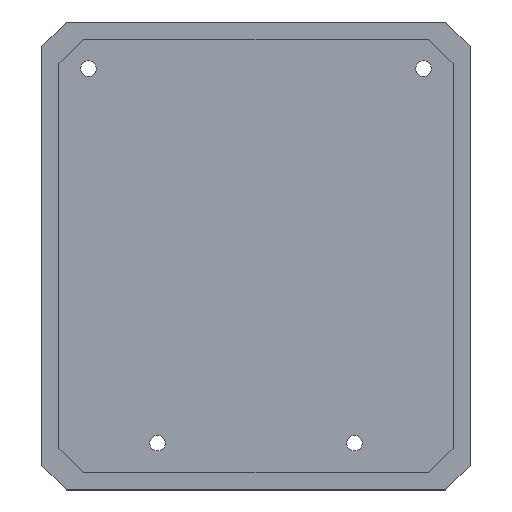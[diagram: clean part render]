
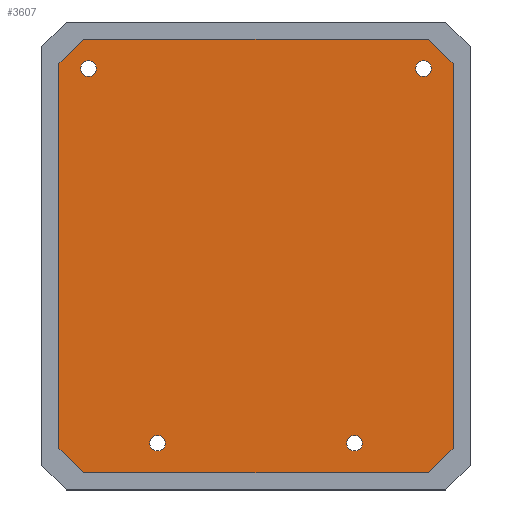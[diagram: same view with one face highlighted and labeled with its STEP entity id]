
A CAD part, top view. The second image highlights one B-rep face of the part: STEP entity #3607.
In plain terms, the highlighted planar face has unit normal (0, 0, 1).
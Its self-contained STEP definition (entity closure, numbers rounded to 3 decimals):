
#59 = VERTEX_POINT ( 'NONE', #2763 ) ;
#85 = CARTESIAN_POINT ( 'NONE',  ( 21.5, -43.5, 1.6 ) ) ;
#149 = DIRECTION ( 'NONE',  ( 0., 0., 1. ) ) ;
#174 = CARTESIAN_POINT ( 'NONE',  ( -34.1, 32.5, 1.6 ) ) ;
#178 = DIRECTION ( 'NONE',  ( 1., 0., 0. ) ) ;
#191 = ORIENTED_EDGE ( 'NONE', *, *, #721, .F. ) ;
#197 = CARTESIAN_POINT ( 'NONE',  ( 36.5, -49.5, 1.6 ) ) ;
#207 = VERTEX_POINT ( 'NONE', #2197 ) ;
#250 = FACE_OUTER_BOUND ( 'NONE', #4143, .T. ) ;
#278 = CARTESIAN_POINT ( 'NONE',  ( -20.1, -43.5, 1.6 ) ) ;
#285 = VERTEX_POINT ( 'NONE', #197 ) ;
#337 = AXIS2_PLACEMENT_3D ( 'NONE', #85, #3635, #3287 ) ;
#365 = EDGE_CURVE ( 'NONE', #1967, #2493, #811, .T. ) ;
#376 = ORIENTED_EDGE ( 'NONE', *, *, #3656, .T. ) ;
#441 = CARTESIAN_POINT ( 'NONE',  ( -38.5, 33.5, 1.6 ) ) ;
#509 = VERTEX_POINT ( 'NONE', #1373 ) ;
#694 = ORIENTED_EDGE ( 'NONE', *, *, #4134, .F. ) ;
#721 = EDGE_CURVE ( 'NONE', #4150, #2888, #1340, .T. ) ;
#749 = CARTESIAN_POINT ( 'NONE',  ( -16.9, -43.5, 1.6 ) ) ;
#811 = CIRCLE ( 'NONE', #2199, 1.6 ) ;
#894 = PLANE ( 'NONE',  #1836 ) ;
#933 = DIRECTION ( 'NONE',  ( 0.707, 0.707, 0. ) ) ;
#942 = CARTESIAN_POINT ( 'NONE',  ( 0., 0., 1.6 ) ) ;
#1005 = ORIENTED_EDGE ( 'NONE', *, *, #1087, .F. ) ;
#1007 = ORIENTED_EDGE ( 'NONE', *, *, #3265, .T. ) ;
#1013 = LINE ( 'NONE', #1765, #3112 ) ;
#1019 = VERTEX_POINT ( 'NONE', #1067 ) ;
#1021 = CARTESIAN_POINT ( 'NONE',  ( 41.5, -44.5, 1.6 ) ) ;
#1067 = CARTESIAN_POINT ( 'NONE',  ( -38.5, 33.5, 1.6 ) ) ;
#1078 = DIRECTION ( 'NONE',  ( 1., 0., 0. ) ) ;
#1087 = EDGE_CURVE ( 'NONE', #2493, #1967, #2931, .T. ) ;
#1147 = VERTEX_POINT ( 'NONE', #2590 ) ;
#1149 = CARTESIAN_POINT ( 'NONE',  ( 19.9, -43.5, 1.6 ) ) ;
#1193 = CARTESIAN_POINT ( 'NONE',  ( 36.5, -49.5, 1.6 ) ) ;
#1214 = LINE ( 'NONE', #2629, #3914 ) ;
#1231 = EDGE_CURVE ( 'NONE', #1504, #2522, #4477, .T. ) ;
#1263 = AXIS2_PLACEMENT_3D ( 'NONE', #3594, #2800, #4219 ) ;
#1279 = DIRECTION ( 'NONE',  ( 0., 0., 1. ) ) ;
#1330 = CARTESIAN_POINT ( 'NONE',  ( -18.5, -43.5, 1.6 ) ) ;
#1340 = CIRCLE ( 'NONE', #2798, 1.6 ) ;
#1369 = LINE ( 'NONE', #2764, #1396 ) ;
#1373 = CARTESIAN_POINT ( 'NONE',  ( 36.5, 38.5, 1.6 ) ) ;
#1396 = VECTOR ( 'NONE', #2041, 1000. ) ;
#1410 = DIRECTION ( 'NONE',  ( -1., 0., 0. ) ) ;
#1449 = EDGE_CURVE ( 'NONE', #1019, #1147, #1470, .T. ) ;
#1470 = LINE ( 'NONE', #441, #3756 ) ;
#1490 = LINE ( 'NONE', #2859, #3390 ) ;
#1504 = VERTEX_POINT ( 'NONE', #278 ) ;
#1604 = CARTESIAN_POINT ( 'NONE',  ( -32.5, 32.5, 1.6 ) ) ;
#1606 = EDGE_CURVE ( 'NONE', #2522, #1504, #2950, .T. ) ;
#1619 = ORIENTED_EDGE ( 'NONE', *, *, #1231, .F. ) ;
#1666 = ORIENTED_EDGE ( 'NONE', *, *, #2233, .T. ) ;
#1765 = CARTESIAN_POINT ( 'NONE',  ( -33.5, -49.5, 1.6 ) ) ;
#1786 = ORIENTED_EDGE ( 'NONE', *, *, #2997, .T. ) ;
#1799 = VECTOR ( 'NONE', #4173, 1000. ) ;
#1834 = DIRECTION ( 'NONE',  ( 0., -1., 0. ) ) ;
#1836 = AXIS2_PLACEMENT_3D ( 'NONE', #942, #1279, #3399 ) ;
#1913 = DIRECTION ( 'NONE',  ( 0., 0., 1. ) ) ;
#1915 = CARTESIAN_POINT ( 'NONE',  ( 35.5, 32.5, 1.6 ) ) ;
#1928 = DIRECTION ( 'NONE',  ( 1., 0., 0. ) ) ;
#1967 = VERTEX_POINT ( 'NONE', #3636 ) ;
#2004 = EDGE_CURVE ( 'NONE', #4362, #509, #1214, .T. ) ;
#2010 = EDGE_CURVE ( 'NONE', #4469, #3708, #3842, .T. ) ;
#2018 = FACE_BOUND ( 'NONE', #2192, .T. ) ;
#2032 = ORIENTED_EDGE ( 'NONE', *, *, #1449, .T. ) ;
#2041 = DIRECTION ( 'NONE',  ( -0.707, -0.707, 0. ) ) ;
#2048 = EDGE_CURVE ( 'NONE', #285, #207, #2567, .T. ) ;
#2086 = LINE ( 'NONE', #4502, #2487 ) ;
#2136 = CARTESIAN_POINT ( 'NONE',  ( 21.5, -43.5, 1.6 ) ) ;
#2141 = ORIENTED_EDGE ( 'NONE', *, *, #4157, .T. ) ;
#2192 = EDGE_LOOP ( 'NONE', ( #3863, #191 ) ) ;
#2197 = CARTESIAN_POINT ( 'NONE',  ( 41.5, -44.5, 1.6 ) ) ;
#2199 = AXIS2_PLACEMENT_3D ( 'NONE', #1915, #3293, #178 ) ;
#2201 = CIRCLE ( 'NONE', #3140, 1.6 ) ;
#2233 = EDGE_CURVE ( 'NONE', #509, #2769, #2086, .T. ) ;
#2289 = ORIENTED_EDGE ( 'NONE', *, *, #2010, .F. ) ;
#2350 = CARTESIAN_POINT ( 'NONE',  ( -32.5, 32.5, 1.6 ) ) ;
#2370 = ORIENTED_EDGE ( 'NONE', *, *, #2004, .T. ) ;
#2392 = DIRECTION ( 'NONE',  ( 0., 0., 1. ) ) ;
#2426 = ORIENTED_EDGE ( 'NONE', *, *, #2048, .T. ) ;
#2428 = ORIENTED_EDGE ( 'NONE', *, *, #1606, .F. ) ;
#2479 = CARTESIAN_POINT ( 'NONE',  ( 41.5, 33.5, 1.6 ) ) ;
#2487 = VECTOR ( 'NONE', #1410, 1000. ) ;
#2493 = VERTEX_POINT ( 'NONE', #4198 ) ;
#2522 = VERTEX_POINT ( 'NONE', #749 ) ;
#2567 = LINE ( 'NONE', #1193, #4496 ) ;
#2580 = EDGE_LOOP ( 'NONE', ( #2909, #1005 ) ) ;
#2590 = CARTESIAN_POINT ( 'NONE',  ( -38.5, -44.5, 1.6 ) ) ;
#2609 = EDGE_LOOP ( 'NONE', ( #2289, #694 ) ) ;
#2621 = FACE_BOUND ( 'NONE', #3055, .T. ) ;
#2629 = CARTESIAN_POINT ( 'NONE',  ( 41.5, 33.5, 1.6 ) ) ;
#2720 = DIRECTION ( 'NONE',  ( 0., 0., 1. ) ) ;
#2742 = CARTESIAN_POINT ( 'NONE',  ( -30.9, 32.5, 1.6 ) ) ;
#2763 = CARTESIAN_POINT ( 'NONE',  ( -33.5, -49.5, 1.6 ) ) ;
#2764 = CARTESIAN_POINT ( 'NONE',  ( -33.5, 38.5, 1.6 ) ) ;
#2769 = VERTEX_POINT ( 'NONE', #3451 ) ;
#2798 = AXIS2_PLACEMENT_3D ( 'NONE', #2136, #4280, #3887 ) ;
#2800 = DIRECTION ( 'NONE',  ( 0., 0., 1. ) ) ;
#2859 = CARTESIAN_POINT ( 'NONE',  ( -38.5, -44.5, 1.6 ) ) ;
#2860 = EDGE_CURVE ( 'NONE', #2888, #4150, #3605, .T. ) ;
#2888 = VERTEX_POINT ( 'NONE', #1149 ) ;
#2909 = ORIENTED_EDGE ( 'NONE', *, *, #365, .F. ) ;
#2931 = CIRCLE ( 'NONE', #1263, 1.6 ) ;
#2950 = CIRCLE ( 'NONE', #3689, 1.6 ) ;
#2992 = DIRECTION ( 'NONE',  ( 1., 0., 0. ) ) ;
#2997 = EDGE_CURVE ( 'NONE', #1147, #59, #1490, .T. ) ;
#3055 = EDGE_LOOP ( 'NONE', ( #1619, #2428 ) ) ;
#3077 = LINE ( 'NONE', #1021, #1799 ) ;
#3112 = VECTOR ( 'NONE', #1078, 1000. ) ;
#3140 = AXIS2_PLACEMENT_3D ( 'NONE', #2350, #2392, #3809 ) ;
#3245 = DIRECTION ( 'NONE',  ( 0.707, -0.707, 0. ) ) ;
#3265 = EDGE_CURVE ( 'NONE', #59, #285, #1013, .T. ) ;
#3287 = DIRECTION ( 'NONE',  ( 1., 0., 0. ) ) ;
#3293 = DIRECTION ( 'NONE',  ( 0., 0., 1. ) ) ;
#3390 = VECTOR ( 'NONE', #3245, 1000. ) ;
#3399 = DIRECTION ( 'NONE',  ( 1., 0., 0. ) ) ;
#3451 = CARTESIAN_POINT ( 'NONE',  ( -33.5, 38.5, 1.6 ) ) ;
#3467 = AXIS2_PLACEMENT_3D ( 'NONE', #1604, #149, #2992 ) ;
#3594 = CARTESIAN_POINT ( 'NONE',  ( 35.5, 32.5, 1.6 ) ) ;
#3605 = CIRCLE ( 'NONE', #337, 1.6 ) ;
#3607 = ADVANCED_FACE ( 'NONE', ( #2621, #4333, #250, #4023, #2018 ), #894, .T. ) ;
#3635 = DIRECTION ( 'NONE',  ( 0., 0., 1. ) ) ;
#3636 = CARTESIAN_POINT ( 'NONE',  ( 33.9, 32.5, 1.6 ) ) ;
#3656 = EDGE_CURVE ( 'NONE', #2769, #1019, #1369, .T. ) ;
#3669 = AXIS2_PLACEMENT_3D ( 'NONE', #4395, #1913, #4325 ) ;
#3689 = AXIS2_PLACEMENT_3D ( 'NONE', #1330, #2720, #1928 ) ;
#3708 = VERTEX_POINT ( 'NONE', #2742 ) ;
#3756 = VECTOR ( 'NONE', #1834, 1000. ) ;
#3809 = DIRECTION ( 'NONE',  ( 1., 0., 0. ) ) ;
#3842 = CIRCLE ( 'NONE', #3467, 1.6 ) ;
#3863 = ORIENTED_EDGE ( 'NONE', *, *, #2860, .F. ) ;
#3887 = DIRECTION ( 'NONE',  ( 1., 0., 0. ) ) ;
#3914 = VECTOR ( 'NONE', #4319, 1000. ) ;
#4023 = FACE_BOUND ( 'NONE', #2580, .T. ) ;
#4103 = CARTESIAN_POINT ( 'NONE',  ( 23.1, -43.5, 1.6 ) ) ;
#4134 = EDGE_CURVE ( 'NONE', #3708, #4469, #2201, .T. ) ;
#4143 = EDGE_LOOP ( 'NONE', ( #1786, #1007, #2426, #2141, #2370, #1666, #376, #2032 ) ) ;
#4150 = VERTEX_POINT ( 'NONE', #4103 ) ;
#4157 = EDGE_CURVE ( 'NONE', #207, #4362, #3077, .T. ) ;
#4173 = DIRECTION ( 'NONE',  ( 0., 1., 0. ) ) ;
#4198 = CARTESIAN_POINT ( 'NONE',  ( 37.1, 32.5, 1.6 ) ) ;
#4219 = DIRECTION ( 'NONE',  ( 1., 0., 0. ) ) ;
#4280 = DIRECTION ( 'NONE',  ( 0., 0., 1. ) ) ;
#4319 = DIRECTION ( 'NONE',  ( -0.707, 0.707, 0. ) ) ;
#4325 = DIRECTION ( 'NONE',  ( 1., 0., 0. ) ) ;
#4333 = FACE_BOUND ( 'NONE', #2609, .T. ) ;
#4362 = VERTEX_POINT ( 'NONE', #2479 ) ;
#4395 = CARTESIAN_POINT ( 'NONE',  ( -18.5, -43.5, 1.6 ) ) ;
#4469 = VERTEX_POINT ( 'NONE', #174 ) ;
#4477 = CIRCLE ( 'NONE', #3669, 1.6 ) ;
#4496 = VECTOR ( 'NONE', #933, 1000. ) ;
#4502 = CARTESIAN_POINT ( 'NONE',  ( 36.5, 38.5, 1.6 ) ) ;
